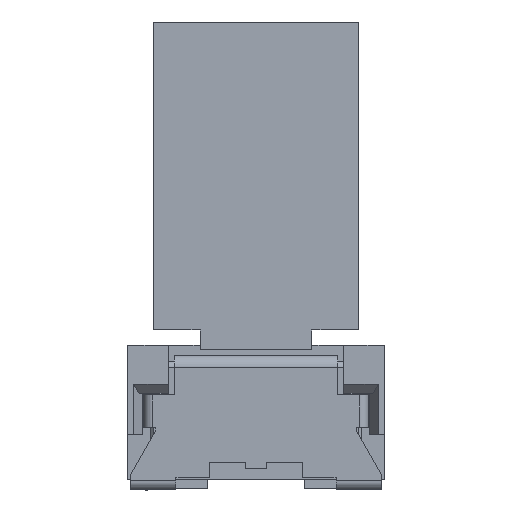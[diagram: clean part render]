
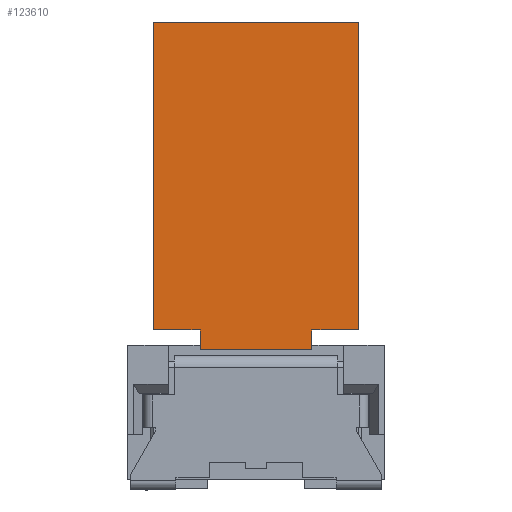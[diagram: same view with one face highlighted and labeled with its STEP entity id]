
A CAD part, left-side view. The second image highlights one B-rep face of the part: STEP entity #123610.
In plain terms, the highlighted planar face has unit normal (-1, 0, 0).
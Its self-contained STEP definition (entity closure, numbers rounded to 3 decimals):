
#31040=CARTESIAN_POINT('',(-11.054,30.22,23.75));
#31050=DIRECTION('',(0.,-1.,0.));
#31060=VECTOR('',#31050,1.);
#31070=LINE('',#31040,#31060);
#31080=CARTESIAN_POINT('',(-11.054,30.65,23.75));
#31090=VERTEX_POINT('',#31080);
#31100=CARTESIAN_POINT('',(-11.054,23.85,23.75));
#31110=VERTEX_POINT('',#31100);
#31120=EDGE_CURVE('',#31090,#31110,#31070,.T.);
#43040=CARTESIAN_POINT('',(-11.054,29.1,13.848));
#43050=DIRECTION('',(0.,0.,1.));
#43060=VECTOR('',#43050,1.);
#43070=LINE('',#43040,#43060);
#43080=CARTESIAN_POINT('',(-11.054,29.1,12.9));
#43090=VERTEX_POINT('',#43080);
#43100=CARTESIAN_POINT('',(-11.054,29.1,13.55));
#43110=VERTEX_POINT('',#43100);
#43120=EDGE_CURVE('',#43090,#43110,#43070,.T.);
#43510=CARTESIAN_POINT('',(-11.054,30.22,12.9));
#43520=DIRECTION('',(0.,-1.,0.));
#43530=VECTOR('',#43520,1.);
#43540=LINE('',#43510,#43530);
#43550=CARTESIAN_POINT('',(-11.054,25.4,12.9));
#43560=VERTEX_POINT('',#43550);
#43570=EDGE_CURVE('',#43090,#43560,#43540,.T.);
#123150=CARTESIAN_POINT('',(-11.054,23.85,23.75));
#123160=DIRECTION('',(-1.,0.,0.));
#123170=DIRECTION('',(0.,0.,1.));
#123180=AXIS2_PLACEMENT_3D('',#123150,#123160,#123170);
#123190=PLANE('',#123180);
#123200=ORIENTED_EDGE('',*,*,#43570,.T.);
#123210=ORIENTED_EDGE('',*,*,#43120,.F.);
#123220=CARTESIAN_POINT('',(-11.054,30.22,13.55));
#123230=DIRECTION('',(0.,1.,0.));
#123240=VECTOR('',#123230,1.);
#123250=LINE('',#123220,#123240);
#123260=CARTESIAN_POINT('',(-11.054,30.65,13.55));
#123270=VERTEX_POINT('',#123260);
#123280=EDGE_CURVE('',#43110,#123270,#123250,.T.);
#123290=ORIENTED_EDGE('',*,*,#123280,.F.);
#123300=CARTESIAN_POINT('',(-11.054,30.65,11.165));
#123310=DIRECTION('',(0.,0.,1.));
#123320=VECTOR('',#123310,1.);
#123330=LINE('',#123300,#123320);
#123340=EDGE_CURVE('',#123270,#31090,#123330,.T.);
#123350=ORIENTED_EDGE('',*,*,#123340,.F.);
#123360=ORIENTED_EDGE('',*,*,#31120,.F.);
#123370=CARTESIAN_POINT('',(-11.054,23.85,11.165));
#123380=DIRECTION('',(0.,0.,-1.));
#123390=VECTOR('',#123380,1.);
#123400=LINE('',#123370,#123390);
#123410=CARTESIAN_POINT('',(-11.054,23.85,13.55));
#123420=VERTEX_POINT('',#123410);
#123430=EDGE_CURVE('',#31110,#123420,#123400,.T.);
#123440=ORIENTED_EDGE('',*,*,#123430,.F.);
#123450=CARTESIAN_POINT('',(-11.054,30.22,13.55));
#123460=DIRECTION('',(0.,1.,0.));
#123470=VECTOR('',#123460,1.);
#123480=LINE('',#123450,#123470);
#123490=CARTESIAN_POINT('',(-11.054,25.4,13.55));
#123500=VERTEX_POINT('',#123490);
#123510=EDGE_CURVE('',#123420,#123500,#123480,.T.);
#123520=ORIENTED_EDGE('',*,*,#123510,.F.);
#123530=CARTESIAN_POINT('',(-11.054,25.4,13.848));
#123540=DIRECTION('',(0.,0.,1.));
#123550=VECTOR('',#123540,1.);
#123560=LINE('',#123530,#123550);
#123570=EDGE_CURVE('',#43560,#123500,#123560,.T.);
#123580=ORIENTED_EDGE('',*,*,#123570,.T.);
#123590=EDGE_LOOP('',(#123580,#123520,#123440,#123360,#123350,#123290,
#123210,#123200));
#123600=FACE_OUTER_BOUND('',#123590,.T.);
#123610=ADVANCED_FACE('',(#123600),#123190,.T.);
